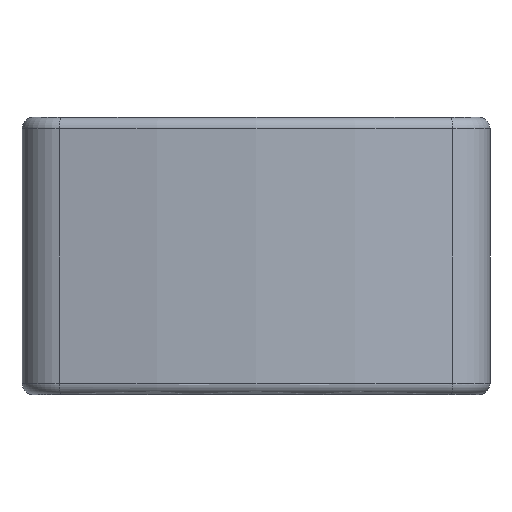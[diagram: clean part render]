
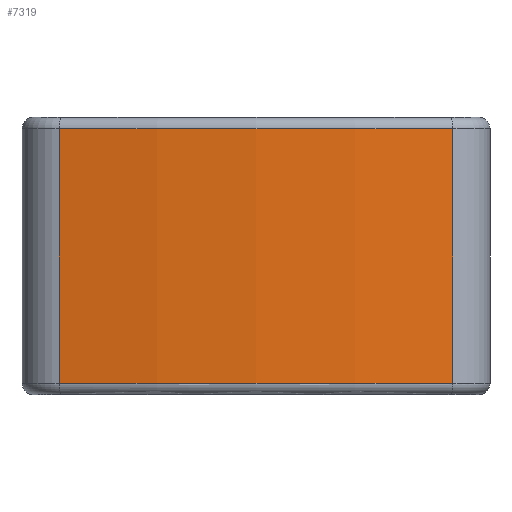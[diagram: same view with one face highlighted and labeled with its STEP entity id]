
A CAD part, front view. The second image highlights one B-rep face of the part: STEP entity #7319.
In plain terms, the highlighted cylindrical face has radius 139.7 mm (diameter 279.4 mm), a partial arc.
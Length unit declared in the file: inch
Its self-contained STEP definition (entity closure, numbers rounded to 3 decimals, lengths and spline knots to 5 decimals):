
#600=LINE('',#12080,#1286);
#601=LINE('',#12084,#1287);
#1286=VECTOR('',#9853,1.);
#1287=VECTOR('',#9858,1.);
#1545=CYLINDRICAL_SURFACE('',#7990,5.5);
#1940=FACE_OUTER_BOUND('',#2403,.T.);
#2403=EDGE_LOOP('',(#6186,#6187,#6188,#6189));
#2593=CIRCLE('',#7511,5.5);
#2792=CIRCLE('',#7991,5.5);
#2971=VERTEX_POINT('',#10648);
#2973=VERTEX_POINT('',#10651);
#3422=VERTEX_POINT('',#12079);
#3423=VERTEX_POINT('',#12083);
#3676=EDGE_CURVE('',#2971,#2973,#2593,.T.);
#4375=EDGE_CURVE('',#2973,#3422,#600,.T.);
#4377=EDGE_CURVE('',#2971,#3423,#601,.T.);
#4378=EDGE_CURVE('',#3422,#3423,#2792,.T.);
#6186=ORIENTED_EDGE('',*,*,#4375,.F.);
#6187=ORIENTED_EDGE('',*,*,#3676,.F.);
#6188=ORIENTED_EDGE('',*,*,#4377,.T.);
#6189=ORIENTED_EDGE('',*,*,#4378,.F.);
#7319=ADVANCED_FACE('',(#1940),#1545,.T.);
#7511=AXIS2_PLACEMENT_3D('',#10652,#8396,#8397);
#7990=AXIS2_PLACEMENT_3D('',#12082,#9856,#9857);
#7991=AXIS2_PLACEMENT_3D('',#12085,#9859,#9860);
#8396=DIRECTION('center_axis',(0.,0.,1.));
#8397=DIRECTION('ref_axis',(0.,-1.,0.));
#9853=DIRECTION('',(0.,0.,-1.));
#9856=DIRECTION('center_axis',(0.,0.,1.));
#9857=DIRECTION('ref_axis',(-1.,0.,0.));
#9858=DIRECTION('',(0.,0.,-1.));
#9859=DIRECTION('center_axis',(0.,0.,
-1.));
#9860=DIRECTION('ref_axis',(0.,-1.,0.));
#10648=CARTESIAN_POINT('',(84.56917,14.76644,-72.8863));
#10651=CARTESIAN_POINT('',(86.69583,14.76644,-72.8863));
#10652=CARTESIAN_POINT('Origin',(85.6325,20.16267,-72.8863));
#12079=CARTESIAN_POINT('',(86.69583,14.76644,-74.2603));
#12080=CARTESIAN_POINT('',(86.69583,14.76644,-73.5733));
#12082=CARTESIAN_POINT('Origin',(85.6325,20.16267,-73.5733));
#12083=CARTESIAN_POINT('',(84.56917,14.76644,-74.2603));
#12084=CARTESIAN_POINT('',(84.56917,14.76644,-73.5733));
#12085=CARTESIAN_POINT('Origin',(85.6325,20.16267,-74.2603));
